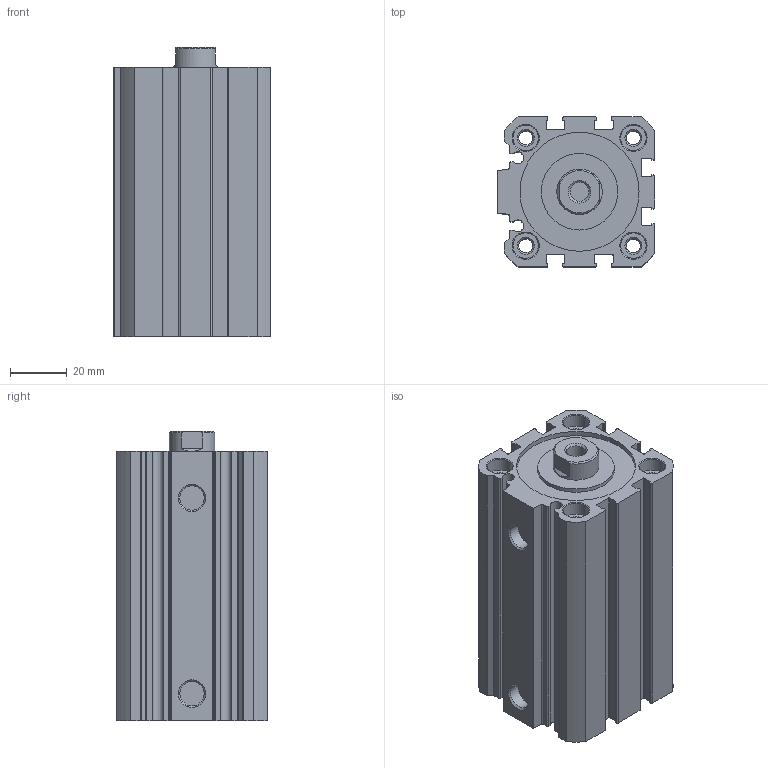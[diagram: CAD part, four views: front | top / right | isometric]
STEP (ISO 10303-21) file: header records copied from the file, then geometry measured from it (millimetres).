
FILE_DESCRIPTION( ( 'STEP AP214' ), '1' );
FILE_NAME( 'C:/Users/EMC02301/Desktop/RU0638 SF图纸/SF40X50-S.stp', '2026-07-24T08:47:06', ( 'License CC BY-ND 4.0' ), ( 'CADENAS' ), ' ', 'PARTsolutions', ' ' );
FILE_SCHEMA( ( 'AUTOMOTIVE_DESIGN { 1 0 10303 214 1 1 1 1 }' ) );
Length unit declared in the file: millimetre
Products named in the file (3): SF40X50-S()(00); _SF40X50()(_body) ; _SF40X50(rod-0)
Assembly tree (2 placements, depth 2):
  SF40X50-S()(00)
    _SF40X50()(_body) 
    _SF40X50(rod-0)
Bounding box: 55.5 x 53 x 102 mm (x, y, z)
Volume: 178702.7 mm3; surface area: 58680.5 mm2
Topology: 2 solids, 2 shells, 202 faces, 523 edges, 342 vertices
Faces by surface type: plane 91, cylinder 88, cone 23
Full cylindrical faces by diameter (mm): 4.917 x4, 6.647 x1, 8.566 x2, 9 x8, 16 x2, 27 x1, 40 x3, 42 x1
Entity records: 7666 total; most frequent: DIRECTION 1086, CARTESIAN_POINT 1035, ORIENTED_EDGE 956, EDGE_CURVE 478, AXIS2_PLACEMENT_3D 407, VERTEX_POINT 340, LINE 272, VECTOR 272
